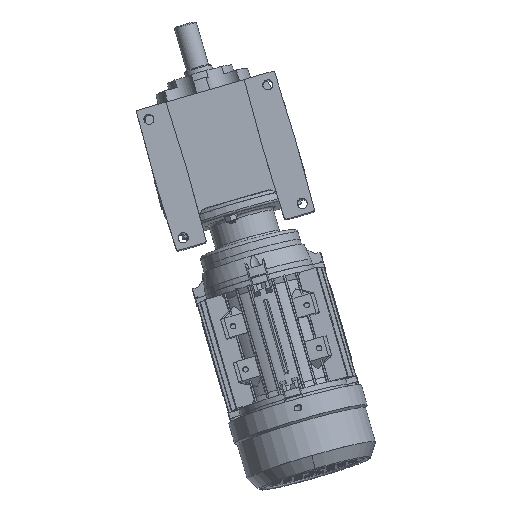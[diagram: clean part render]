
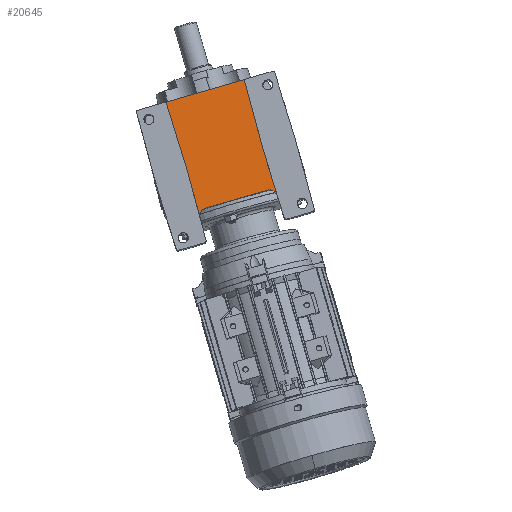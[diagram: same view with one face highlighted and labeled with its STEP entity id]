
A CAD part, front view. The second image highlights one B-rep face of the part: STEP entity #20645.
In plain terms, the highlighted planar face has unit normal (-0.01, -0.998, 0.069) as drawn and (0, -1, 0) by its records, which use the part's own axes.
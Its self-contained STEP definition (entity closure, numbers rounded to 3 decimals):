
#14790 = CARTESIAN_POINT ( 'NONE',  ( 35.775, -74.5, -2.878 ) ) ;
#14846 = CARTESIAN_POINT ( 'NONE',  ( -28.814, -74.5, 4. ) ) ;
#14907 = CARTESIAN_POINT ( 'NONE',  ( 28.808, -74.5, 4. ) ) ;
#14926 = CARTESIAN_POINT ( 'NONE',  ( -35., -74.5, 41.5 ) ) ;
#14994 = CARTESIAN_POINT ( 'NONE',  ( -36.1, -74.5, 104.5 ) ) ;
#15074 = CARTESIAN_POINT ( 'NONE',  ( 35., -74.5, 41.5 ) ) ;
#15108 = CARTESIAN_POINT ( 'NONE',  ( -35.775, -74.5, -2.878 ) ) ;
#15119 = CARTESIAN_POINT ( 'NONE',  ( 36.1, -74.5, 104.5 ) ) ;
#20645 = ADVANCED_FACE ( 'NONE', ( #48673 ), #45794, .F. ) ;
#30206 = AXIS2_PLACEMENT_3D ( 'NONE', #45820, #45796, #45792 ) ;
#35975 = EDGE_CURVE ( 'NONE', #65348, #65344, #54574, .T. ) ;
#36125 = EDGE_CURVE ( 'NONE', #65262, #65355, #54671, .T. ) ;
#36282 = EDGE_CURVE ( 'NONE', #65290, #65348, #54741, .T. ) ;
#36322 = EDGE_CURVE ( 'NONE', #65245, #65294, #54722, .T. ) ;
#36324 = EDGE_CURVE ( 'NONE', #65355, #65284, #54723, .T. ) ;
#36329 = EDGE_CURVE ( 'NONE', #65294, #65262, #54726, .T. ) ;
#36351 = EDGE_CURVE ( 'NONE', #65344, #65245, #54798, .T. ) ;
#36426 = EDGE_CURVE ( 'NONE', #65284, #65290, #54819, .T. ) ;
#42226 = ORIENTED_EDGE ( 'NONE', *, *, #36426, .F. ) ;
#42260 = ORIENTED_EDGE ( 'NONE', *, *, #36282, .F. ) ;
#42274 = ORIENTED_EDGE ( 'NONE', *, *, #35975, .F. ) ;
#42291 = ORIENTED_EDGE ( 'NONE', *, *, #36125, .F. ) ;
#42329 = ORIENTED_EDGE ( 'NONE', *, *, #36329, .F. ) ;
#42333 = ORIENTED_EDGE ( 'NONE', *, *, #36351, .F. ) ;
#42338 = ORIENTED_EDGE ( 'NONE', *, *, #36324, .F. ) ;
#42545 = ORIENTED_EDGE ( 'NONE', *, *, #36322, .F. ) ;
#45792 = DIRECTION ( 'NONE',  ( 0., 0., 1. ) ) ;
#45794 = PLANE ( 'NONE',  #30206 ) ;
#45796 = DIRECTION ( 'NONE',  ( 0., 1., 0. ) ) ;
#45820 = CARTESIAN_POINT ( 'NONE',  ( 34.155, -74.5, -6.919 ) ) ;
#48673 = FACE_OUTER_BOUND ( 'NONE', #67561, .T. ) ;
#50886 = AXIS2_PLACEMENT_3D ( 'NONE', #57345, #57349, #57340 ) ;
#52614 = AXIS2_PLACEMENT_3D ( 'NONE', #53951, #53979, #53950 ) ;
#53706 = DIRECTION ( 'NONE',  ( -0.017, 0., -1. ) ) ;
#53708 = CARTESIAN_POINT ( 'NONE',  ( 36.1, -74.5, 104.5 ) ) ;
#53950 = DIRECTION ( 'NONE',  ( 0., 0., 1. ) ) ;
#53951 = CARTESIAN_POINT ( 'NONE',  ( -28.776, -74.5, -3. ) ) ;
#53979 = DIRECTION ( 'NONE',  ( 0., -1., 0. ) ) ;
#54574 = LINE ( 'NONE', #53708, #54580 ) ;
#54580 = VECTOR ( 'NONE', #53706, 1000. ) ;
#54671 = CIRCLE ( 'NONE', #52614, 7. ) ;
#54714 = VECTOR ( 'NONE', #57304, 1000. ) ;
#54722 = CIRCLE ( 'NONE', #50886, 7. ) ;
#54723 = LINE ( 'NONE', #57341, #54724 ) ;
#54724 = VECTOR ( 'NONE', #57350, 1000. ) ;
#54726 = LINE ( 'NONE', #57353, #54727 ) ;
#54727 = VECTOR ( 'NONE', #57321, 1000. ) ;
#54741 = LINE ( 'NONE', #57285, #54714 ) ;
#54778 = VECTOR ( 'NONE', #57371, 1000. ) ;
#54783 = VECTOR ( 'NONE', #57461, 1000. ) ;
#54798 = LINE ( 'NONE', #57324, #54778 ) ;
#54819 = LINE ( 'NONE', #57459, #54783 ) ;
#57285 = CARTESIAN_POINT ( 'NONE',  ( 34.155, -74.5, 104.5 ) ) ;
#57304 = DIRECTION ( 'NONE',  ( 1., 0., 0. ) ) ;
#57321 = DIRECTION ( 'NONE',  ( -1., 0., 0. ) ) ;
#57324 = CARTESIAN_POINT ( 'NONE',  ( 35., -74.5, 41.5 ) ) ;
#57340 = DIRECTION ( 'NONE',  ( 1., 0., 0. ) ) ;
#57341 = CARTESIAN_POINT ( 'NONE',  ( -35.775, -74.5, -2.878 ) ) ;
#57345 = CARTESIAN_POINT ( 'NONE',  ( 28.776, -74.5, -3. ) ) ;
#57349 = DIRECTION ( 'NONE',  ( 0., -1., 0. ) ) ;
#57350 = DIRECTION ( 'NONE',  ( 0.017, 0., 1. ) ) ;
#57353 = CARTESIAN_POINT ( 'NONE',  ( 234.226, -74.5, 4. ) ) ;
#57371 = DIRECTION ( 'NONE',  ( 0.017, 0., -1. ) ) ;
#57459 = CARTESIAN_POINT ( 'NONE',  ( -35., -74.5, 41.5 ) ) ;
#57461 = DIRECTION ( 'NONE',  ( -0.017, 0., 1. ) ) ;
#65245 = VERTEX_POINT ( 'NONE', #14790 ) ;
#65262 = VERTEX_POINT ( 'NONE', #14846 ) ;
#65284 = VERTEX_POINT ( 'NONE', #14926 ) ;
#65290 = VERTEX_POINT ( 'NONE', #14994 ) ;
#65294 = VERTEX_POINT ( 'NONE', #14907 ) ;
#65344 = VERTEX_POINT ( 'NONE', #15074 ) ;
#65348 = VERTEX_POINT ( 'NONE', #15119 ) ;
#65355 = VERTEX_POINT ( 'NONE', #15108 ) ;
#67561 = EDGE_LOOP ( 'NONE', ( #42338, #42291, #42329, #42545, #42333, #42274, #42260, #42226 ) ) ;
